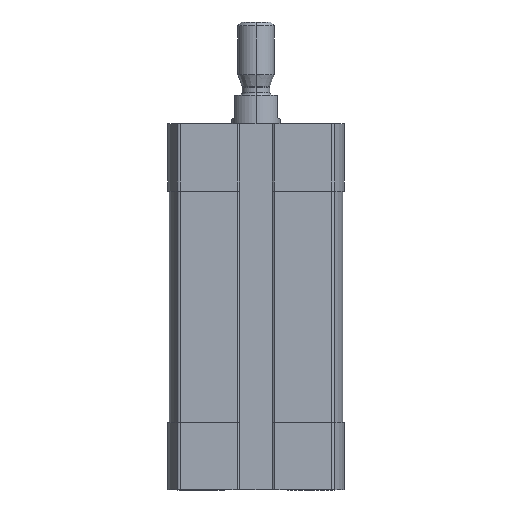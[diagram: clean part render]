
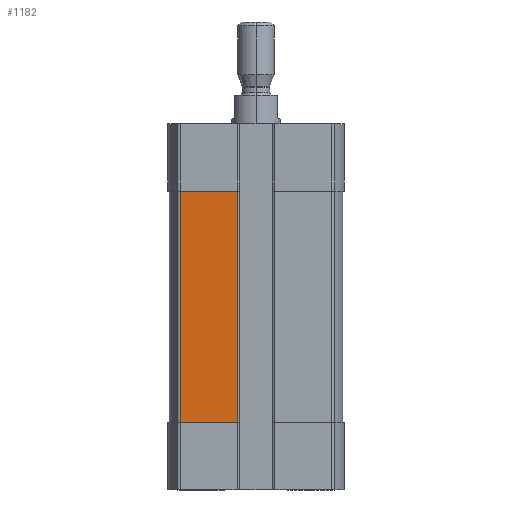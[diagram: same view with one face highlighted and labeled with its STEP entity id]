
A CAD part, left-side view. The second image highlights one B-rep face of the part: STEP entity #1182.
In plain terms, the highlighted planar face has unit normal (-1, 0, 0).
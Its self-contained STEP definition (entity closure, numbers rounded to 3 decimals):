
#207 = EDGE_LOOP ( 'NONE', ( #10113, #7442, #3574, #3862 ) ) ;
#365 = CARTESIAN_POINT ( 'NONE',  ( -14.25, 3.1, -49. ) ) ;
#1182 = ADVANCED_FACE ( 'NONE', ( #6280 ), #4254, .T. ) ;
#1204 = CARTESIAN_POINT ( 'NONE',  ( -14.25, 12.347, -49. ) ) ;
#1617 = AXIS2_PLACEMENT_3D ( 'NONE', #3799, #4680, #4670 ) ;
#1814 = DIRECTION ( 'NONE',  ( 0., 0., 1. ) ) ;
#2250 = LINE ( 'NONE', #11320, #6841 ) ;
#2312 = EDGE_CURVE ( 'NONE', #2322, #3424, #5404, .T. ) ;
#2322 = VERTEX_POINT ( 'NONE', #3326 ) ;
#2936 = VECTOR ( 'NONE', #7892, 1000. ) ;
#3326 = CARTESIAN_POINT ( 'NONE',  ( -14.25, 3.1, -11. ) ) ;
#3375 = EDGE_CURVE ( 'NONE', #3424, #3820, #2250, .T. ) ;
#3424 = VERTEX_POINT ( 'NONE', #5150 ) ;
#3574 = ORIENTED_EDGE ( 'NONE', *, *, #2312, .T. ) ;
#3799 = CARTESIAN_POINT ( 'NONE',  ( -14.25, 12.347, -49. ) ) ;
#3820 = VERTEX_POINT ( 'NONE', #8914 ) ;
#3862 = ORIENTED_EDGE ( 'NONE', *, *, #3375, .T. ) ;
#4145 = DIRECTION ( 'NONE',  ( 0., 0., -1. ) ) ;
#4254 = PLANE ( 'NONE',  #1617 ) ;
#4670 = DIRECTION ( 'NONE',  ( 0., 0., 1. ) ) ;
#4680 = DIRECTION ( 'NONE',  ( -1., 0., 0. ) ) ;
#5150 = CARTESIAN_POINT ( 'NONE',  ( -14.25, 12.347, -11. ) ) ;
#5404 = LINE ( 'NONE', #6054, #2936 ) ;
#5738 = EDGE_CURVE ( 'NONE', #7561, #2322, #6244, .T. ) ;
#6054 = CARTESIAN_POINT ( 'NONE',  ( -14.25, 0., -11. ) ) ;
#6244 = LINE ( 'NONE', #8200, #8661 ) ;
#6280 = FACE_OUTER_BOUND ( 'NONE', #207, .T. ) ;
#6841 = VECTOR ( 'NONE', #4145, 1000. ) ;
#7206 = VECTOR ( 'NONE', #7572, 1000. ) ;
#7442 = ORIENTED_EDGE ( 'NONE', *, *, #5738, .T. ) ;
#7561 = VERTEX_POINT ( 'NONE', #365 ) ;
#7572 = DIRECTION ( 'NONE',  ( 0., -1., 0. ) ) ;
#7892 = DIRECTION ( 'NONE',  ( 0., 1., 0. ) ) ;
#8200 = CARTESIAN_POINT ( 'NONE',  ( -14.25, 3.1, -49. ) ) ;
#8661 = VECTOR ( 'NONE', #1814, 1000. ) ;
#8914 = CARTESIAN_POINT ( 'NONE',  ( -14.25, 12.347, -49. ) ) ;
#9208 = EDGE_CURVE ( 'NONE', #3820, #7561, #9295, .T. ) ;
#9295 = LINE ( 'NONE', #1204, #7206 ) ;
#10113 = ORIENTED_EDGE ( 'NONE', *, *, #9208, .T. ) ;
#11320 = CARTESIAN_POINT ( 'NONE',  ( -14.25, 12.347, -49. ) ) ;
